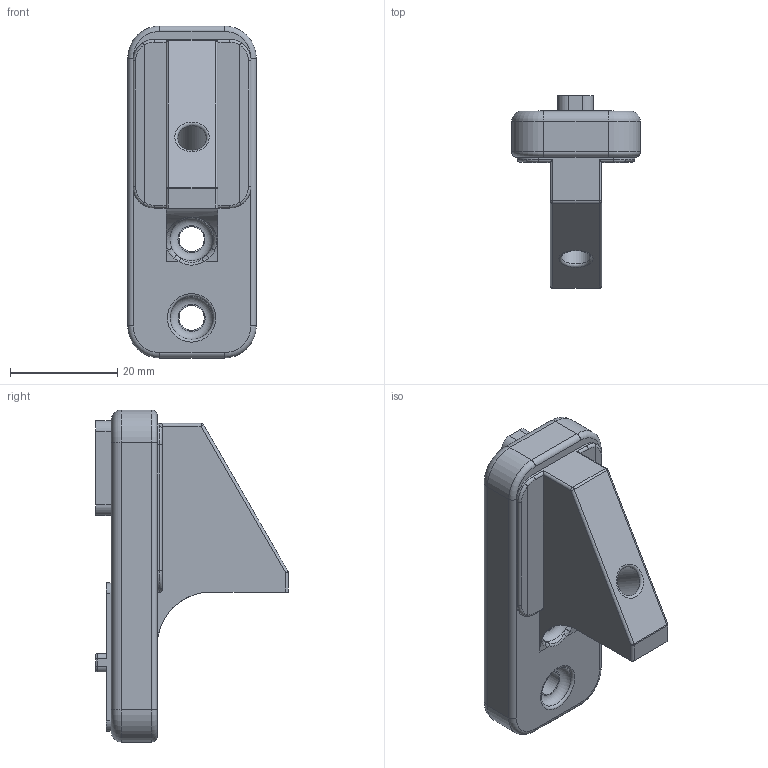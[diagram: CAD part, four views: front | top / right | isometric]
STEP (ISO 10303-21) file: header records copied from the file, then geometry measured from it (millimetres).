
FILE_DESCRIPTION(/* description */ (''),/* implementation_level */ '2;1');
FILE_NAME(/* name */ '//vboxsvr/bigsql-win-testing/CAD/DD2-GIT/freeman1337/ar15-foregrip-accessories-pack/STEP/foregrip-adapter-mlok-freeman1337.step',/* time_stamp */ '2021-04-15T20:24:15-07:00',/* author */ (''),/* organization */ (''),/* preprocessor_version */ 'ST-DEVELOPER v18.1',/* originating_system */ 'Autodesk Translation Framework v10.6.0.1341',/* authorisation */ '');
FILE_SCHEMA (('AUTOMOTIVE_DESIGN { 1 0 10303 214 3 1 1 }'));
Length unit declared in the file: millimetre
Products named in the file (1): mlok-adapter
Bounding box: 24 x 35.95 x 62 mm (x, y, z)
Volume: 17848 mm3; surface area: 6291.9 mm2
Topology: 1 solids, 1 shells, 127 faces, 306 edges, 185 vertices
Faces by surface type: cylinder 52, plane 38, torus 22, bspline 11, sphere 4
Full cylindrical faces by diameter (mm): 4.65 x2, 5.41 x1
Entity records: 4258 total; most frequent: CARTESIAN_POINT 1227, DIRECTION 662, ORIENTED_EDGE 612, EDGE_CURVE 306, AXIS2_PLACEMENT_3D 263, VERTEX_POINT 185, LINE 136, VECTOR 136
